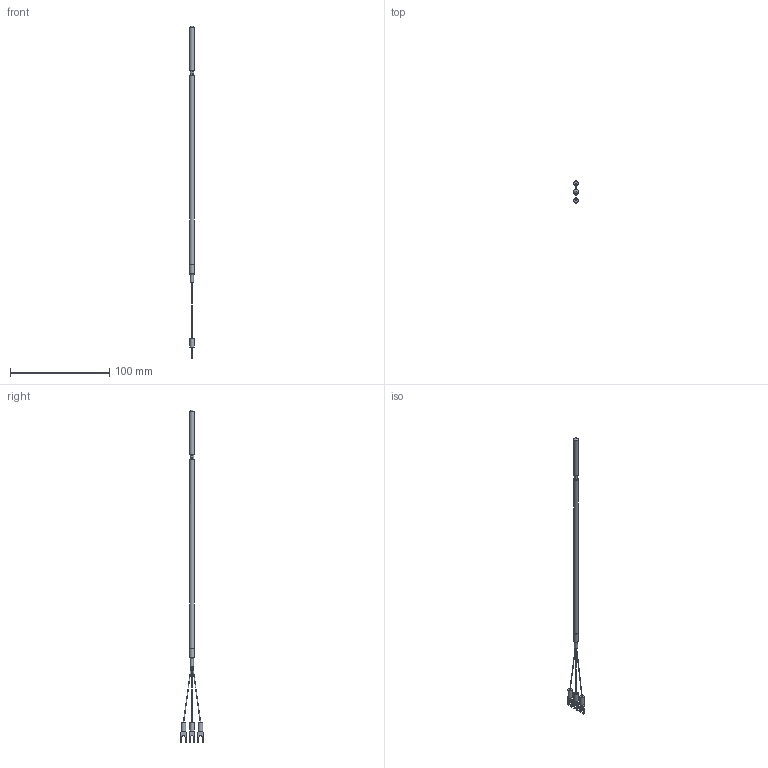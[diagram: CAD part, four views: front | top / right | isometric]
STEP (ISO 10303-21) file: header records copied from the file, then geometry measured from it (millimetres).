
FILE_DESCRIPTION (( 'STEP AP203' ), '1' );
FILE_NAME ('YIR102-5(0).STEP', '2024-08-28T04:40:07', ( '' ), ( '' ), 'SwSTEP 2.0', 'SolidWorks 2021', '' );
FILE_SCHEMA (( 'CONFIG_CONTROL_DESIGN' ));
Length unit declared in the file: millimetre
Products named in the file (1): YIR102-5(0)
Bounding box: 5 x 22.96 x 334.72 mm (x, y, z)
Volume: 5109.9 mm3; surface area: 4952.5 mm2
Topology: 1 solids, 1 shells, 86 faces, 206 edges, 132 vertices
Faces by surface type: plane 51, cylinder 29, cone 4, bspline 2
Full cylindrical faces by diameter (mm): 0.5 x1, 3.16 x1, 4.5 x3, 4.8 x1, 4.802 x1, 5 x1
Entity records: 2489 total; most frequent: CARTESIAN_POINT 431, DIRECTION 428, ORIENTED_EDGE 378, EDGE_CURVE 189, AXIS2_PLACEMENT_3D 154, VERTEX_POINT 129, LINE 120, VECTOR 120
